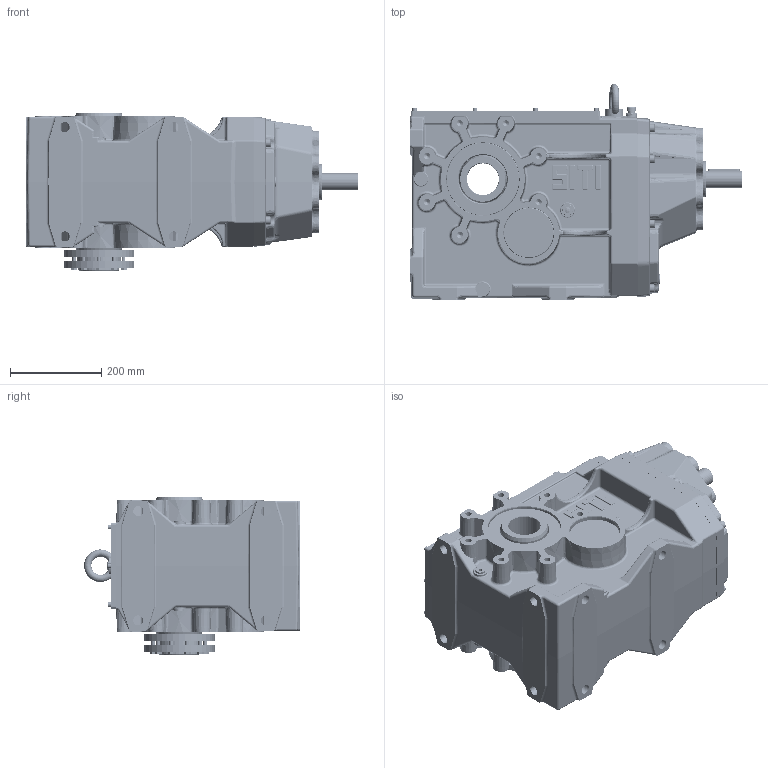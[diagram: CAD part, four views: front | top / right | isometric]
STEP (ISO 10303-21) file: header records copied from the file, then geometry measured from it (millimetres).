
FILE_DESCRIPTION((''),'2;1');
FILE_NAME('C:\Users\m.piscopiello.SITIRIDUTTORI\Desktop\3D x SITO\BH 140\BH_140 CC-A.stp','2013-05-09T17:03:59',('m.piscopiello'),(''),'Autodesk Inventor 2012','Autodesk Inventor 2012','');
FILE_SCHEMA(('CONFIG_CONTROL_DESIGN'));
Length unit declared in the file: millimetre
Products named in the file (1): BH_140 CC-A
Bounding box: 729 x 474 x 345 mm (x, y, z)
Volume: 18185524.3 mm3; surface area: 2769770.8 mm2
Topology: 48 solids, 50 shells, 4009 faces, 9542 edges, 5643 vertices
Faces by surface type: cylinder 1099, plane 1083, bspline 897, torus 416, cone 375, sphere 139
Full cylindrical faces by diameter (mm): 3 x2, 4.917 x10, 6 x20, 6.4 x10, 6.75 x1, 7 x10, 8 x10, 8.4 x1, 9 x20, 10 x10, 10.106 x10, 11.63 x10, 12 x22, 12.5 x12, 13 x8, 13.835 x14, 14.95 x2, 16 x1, 16.6 x6, 17.294 x3, 18 x8, 19.5 x1, 20.5 x8, 22 x8, 25 x1, 26 x1, 30 x3, 38 x1, 40 x1, 70 x2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
Entity records: 154451 total; most frequent: CARTESIAN_POINT 65948, ORIENTED_EDGE 17420, DIRECTION 16785, EDGE_CURVE 8710, AXIS2_PLACEMENT_3D 7108, VERTEX_POINT 5436, EDGE_LOOP 4777, STYLED_ITEM 4056
